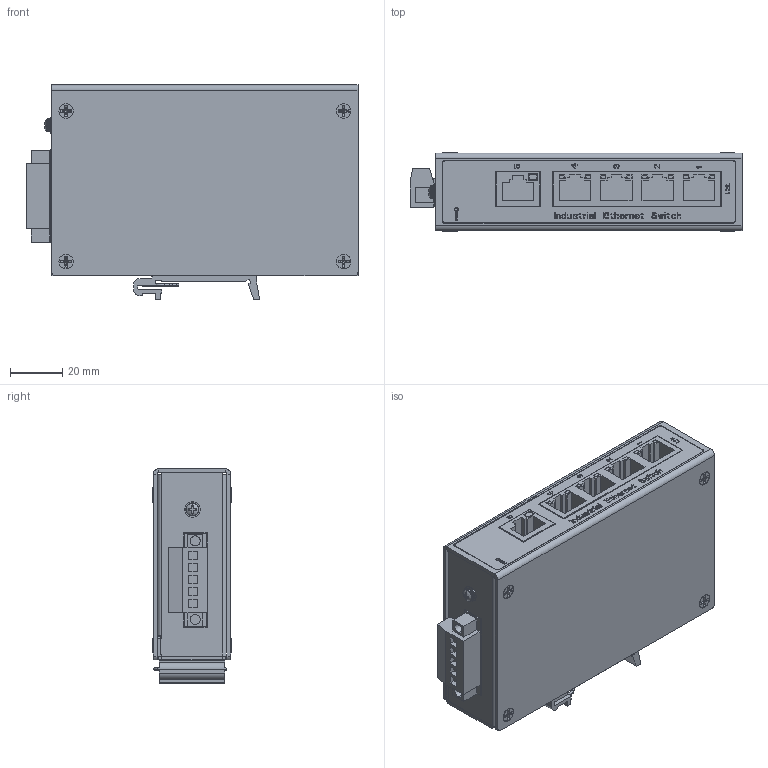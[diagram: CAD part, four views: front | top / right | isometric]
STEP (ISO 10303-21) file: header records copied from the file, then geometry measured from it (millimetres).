
FILE_DESCRIPTION((''),'2;1');
FILE_NAME('NEUH1050F_BJ1050FBS-260110_1__ASM','2026-03-20T12:31:36',('WB'),(''),'CREO PARAMETRIC BY PTC INC, 2020053','CREO PARAMETRIC BY PTC INC, 2020053','');
FILE_SCHEMA(('AUTOMOTIVE_DESIGN { 1 0 10303 214 1 1 1 1 }'));
Products named in the file (16): XIAKE_32; SHANGKE_30; 5KOU_PCB_4; LXLYM-2EDGRM_3_1_2_1; LXLYM-2EDGRM_3_1_2_2; LXLYM-2EDGRM_3_1_2_ASM; 1X4_RJ45_LED_1_1; RJ45_LED_D_2_1; LED_TP_1_1_2; NEU1050FBS-A_PCBA_ASM_18_ASM; PVC_26; GUAGOU-25MM_13_1; M3X6MM_DP_1_1_2; KM3X6MM_1_1; NEUH1050F_ASM_65_ASM; NEUH1050F_BJ1050FBS-260110_1__ASM
Assembly tree (26 placements, depth 5):
  NEUH1050F_BJ1050FBS-260110_1__ASM
    NEUH1050F_ASM_65_ASM
      XIAKE_32
      SHANGKE_30
      NEU1050FBS-A_PCBA_ASM_18_ASM
        5KOU_PCB_4
        LXLYM-2EDGRM_3_1_2_ASM
          LXLYM-2EDGRM_3_1_2_1
          LXLYM-2EDGRM_3_1_2_2
        1X4_RJ45_LED_1_1
        RJ45_LED_D_2_1
        LED_TP_1_1_2
      PVC_26
      GUAGOU-25MM_13_1
      M3X6MM_DP_1_1_2  x5
      KM3X6MM_1_1  x8
Bounding box: 126.82 x 30 x 82.13 mm (x, y, z)
Volume: 78800.6 mm3; surface area: 109801.4 mm2
Topology: 23 solids, 24 shells, 2382 faces, 6377 edges, 4148 vertices
Faces by surface type: plane 1649, cylinder 518, cone 72, bspline 51, torus 50, sphere 42
Entity records: 74900 total; most frequent: CARTESIAN_POINT 12335, ORIENTED_EDGE 9770, DIRECTION 9183, EDGE_CURVE 4885, PRESENTATION_STYLE_ASSIGNMENT 4839, STYLED_ITEM 4773, CURVE_STYLE 4677, VECTOR 4139
